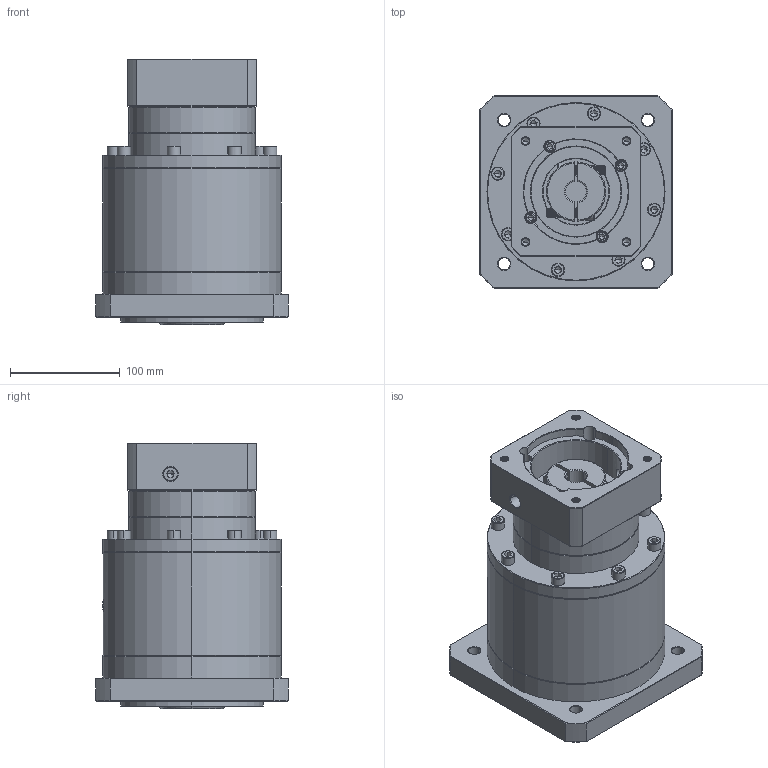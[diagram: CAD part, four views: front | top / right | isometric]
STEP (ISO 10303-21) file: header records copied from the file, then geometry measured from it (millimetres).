
FILE_DESCRIPTION (( 'STEP AP214' ), '1' );
FILE_NAME ('ZF160A-K35-L3-P2-19-95-130-M8.step', '2023-09-03T07:59:10', ( '' ), ( '' ), 'SwSTEP 2.0', 'SolidWorks 2016', '' );
FILE_SCHEMA (( 'AUTOMOTIVE_DESIGN' ));
Length unit declared in the file: millimetre
Products named in the file (1): ZF160A-K35-L3-P2-19-95-130-M8
Bounding box: 175 x 175 x 241.7 mm (x, y, z)
Volume: 4052820.5 mm3; surface area: 275609 mm2
Topology: 6 solids, 6 shells, 2374 faces, 6255 edges, 4003 vertices
Faces by surface type: plane 1112, cylinder 453, bspline 398, cone 355, torus 56
Entity records: 125310 total; most frequent: CARTESIAN_POINT 45544, ORIENTED_EDGE 12406, DIRECTION 9461, EDGE_CURVE 6203, VERTEX_POINT 4003, VECTOR 3323, LINE 3323, AXIS2_PLACEMENT_3D 3069
